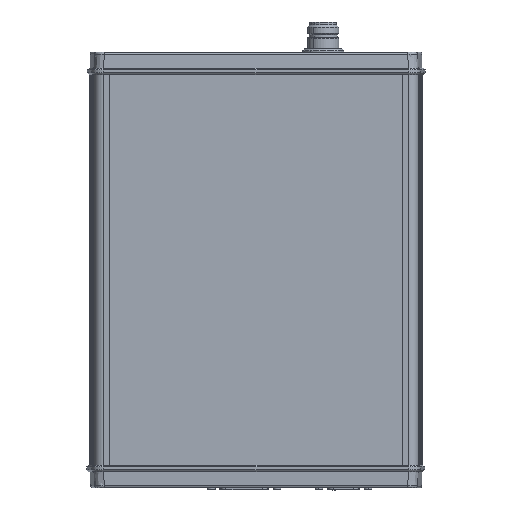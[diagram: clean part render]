
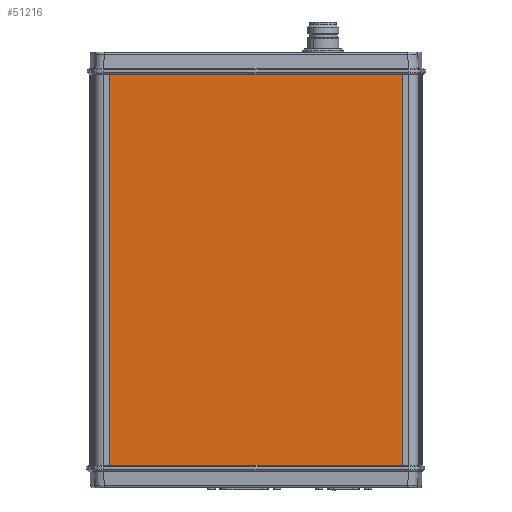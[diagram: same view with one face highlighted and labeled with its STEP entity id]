
A CAD part, front view. The second image highlights one B-rep face of the part: STEP entity #51216.
In plain terms, the highlighted planar face has unit normal (0, -1, 0).
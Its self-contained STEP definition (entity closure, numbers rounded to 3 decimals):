
#7153=VERTEX_POINT('',#72336);
#7154=VERTEX_POINT('',#72338);
#7550=VERTEX_POINT('',#73115);
#7551=VERTEX_POINT('',#73117);
#12235=VECTOR('',#59134,1.);
#12501=VECTOR('',#59627,1.);
#13039=VECTOR('',#60595,1.);
#13040=VECTOR('',#60597,1.);
#16550=LINE('',#72337,#12235);
#16816=LINE('',#73116,#12501);
#17354=LINE('',#74285,#13039);
#17355=LINE('',#74287,#13040);
#20887=EDGE_CURVE('',#7154,#7153,#16550,.T.);
#21297=EDGE_CURVE('',#7551,#7550,#16816,.T.);
#21901=EDGE_CURVE('',#7153,#7551,#17354,.T.);
#21902=EDGE_CURVE('',#7154,#7550,#17355,.T.);
#30713=ORIENTED_EDGE('',*,*,#21297,.T.);
#30714=ORIENTED_EDGE('',*,*,#21902,.F.);
#30715=ORIENTED_EDGE('',*,*,#20887,.T.);
#30716=ORIENTED_EDGE('',*,*,#21901,.T.);
#44630=EDGE_LOOP('',(#30713,#30714,#30715,#30716));
#47924=FACE_BOUND('',#44630,.T.);
#51216=ADVANCED_FACE('',(#47924),#97727,.T.);
#54402=AXIS2_PLACEMENT_3D('',#74286,#60596,$);
#59134=DIRECTION('',(-1.,0.,0.));
#59627=DIRECTION('',(1.,0.,0.));
#60595=DIRECTION('',(0.,0.,-1.));
#60596=DIRECTION('',(0.,-1.,0.));
#60597=DIRECTION('',(0.,0.,-1.));
#72336=CARTESIAN_POINT('',(10.99,63.533,0.));
#72337=CARTESIAN_POINT('',(159.99,63.533,0.));
#72338=CARTESIAN_POINT('',(159.99,63.533,0.));
#73115=CARTESIAN_POINT('',(159.99,63.533,-200.));
#73116=CARTESIAN_POINT('',(10.99,63.533,-200.));
#73117=CARTESIAN_POINT('',(10.99,63.533,-200.));
#74285=CARTESIAN_POINT('',(10.99,63.533,0.));
#74286=CARTESIAN_POINT('',(10.99,63.533,0.));
#74287=CARTESIAN_POINT('',(159.99,63.533,0.));
#97727=PLANE('',#54402);
